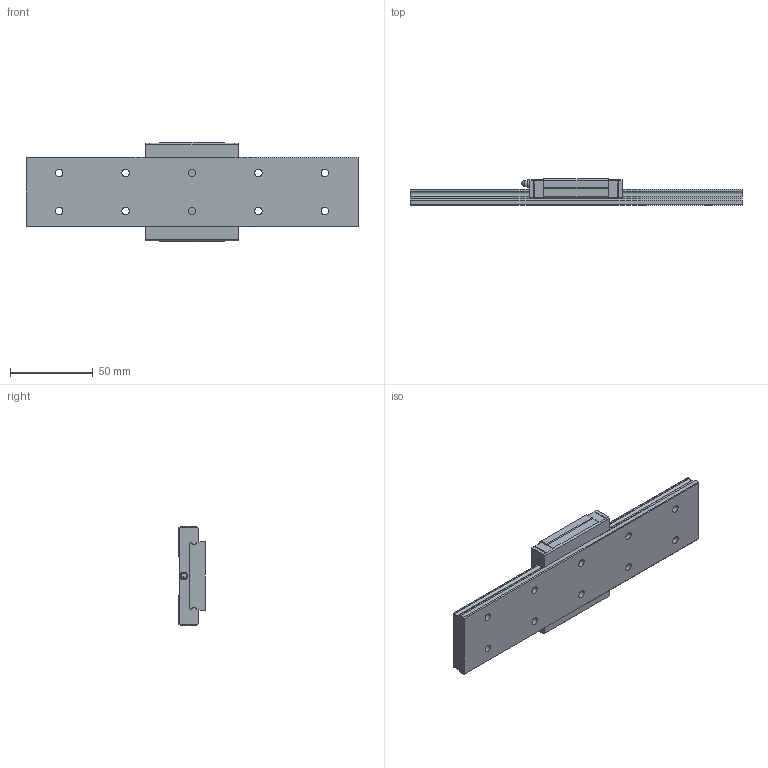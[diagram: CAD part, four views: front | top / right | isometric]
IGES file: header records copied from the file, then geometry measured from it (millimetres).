
Start section: Data from Parasolid IGES Translator 26.0.171, Copyright(c) 2006 Siemens PLM Software. All Rights Reserved.
Global section: file name: RSX15M1WUU-200LM_G20_0_PB107_72-25_0_0_0_1.igs; native system: By Siemens PLM Incorporated; preprocessor: XPlus GENERIC/IGES 26.0.171; author: Noname; organization: Noname; date: 20240523.083707; units: millimetre
Bounding box: 200 x 16 x 60 mm (x, y, z)
Surface area: 32663.4 mm2 (no closed solid volume)
Topology: 0 solids, 0 shells, 149 faces, 775 edges, 717 vertices
Faces by surface type: extrusion 95, revolution 54
